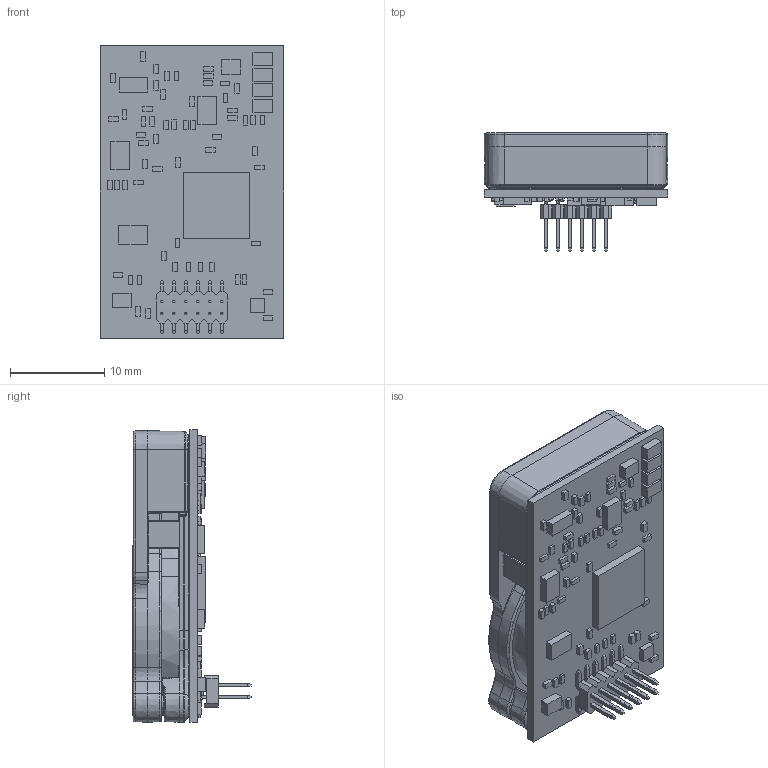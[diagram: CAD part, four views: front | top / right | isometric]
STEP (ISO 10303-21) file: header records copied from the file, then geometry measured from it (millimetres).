
FILE_DESCRIPTION (( 'STEP AP214' ), '1' );
FILE_NAME ('LP2-ASM-001.STEP', '2019-04-29T09:35:18', ( '' ), ( '' ), 'SwSTEP 2.0', 'SolidWorks 2015', '' );
FILE_SCHEMA (( 'AUTOMOTIVE_DESIGN' ));
Length unit declared in the file: millimetre
Products named in the file (1): LP2-ASM-001
Bounding box: 19.5 x 12.55 x 31 mm (x, y, z)
Volume: 3462.6 mm3; surface area: 3570.6 mm2
Topology: 1 solids, 1 shells, 1439 faces, 3456 edges, 2093 vertices
Faces by surface type: plane 844, cylinder 213, bspline 138, torus 109, cone 89, sphere 46
Full cylindrical faces by diameter (mm): 1.2 x2, 18 x1
Entity records: 47529 total; most frequent: CARTESIAN_POINT 15413, ORIENTED_EDGE 6804, DIRECTION 6253, EDGE_CURVE 3402, VECTOR 2323, LINE 2323, VERTEX_POINT 2081, AXIS2_PLACEMENT_3D 1965
